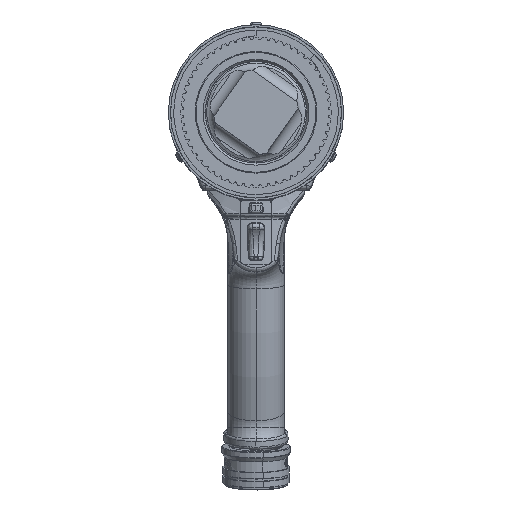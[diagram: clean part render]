
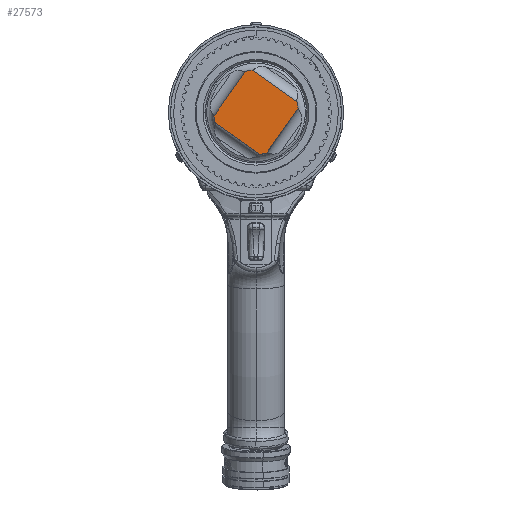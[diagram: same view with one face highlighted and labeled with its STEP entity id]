
A CAD part, top view. The second image highlights one B-rep face of the part: STEP entity #27573.
In plain terms, the highlighted planar face has unit normal (0, 0, 1).
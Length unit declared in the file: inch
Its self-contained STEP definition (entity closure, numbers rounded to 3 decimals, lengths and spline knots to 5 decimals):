
#1990 = DIRECTION ( 'NONE',  ( -0.573, -0.82, 0. ) ) ;
#4390 = DIRECTION ( 'NONE',  ( -0.82, 0.573, 0. ) ) ;
#5720 = LINE ( 'NONE', #105023, #92102 ) ;
#6228 = DIRECTION ( 'NONE',  ( 0., 0., 1. ) ) ;
#12173 = CARTESIAN_POINT ( 'NONE',  ( -1.35949, -0.63585, 4.1857 ) ) ;
#13141 = CARTESIAN_POINT ( 'NONE',  ( -0.95209, -0.24957, 4.1857 ) ) ;
#13462 = CIRCLE ( 'NONE', #134133, 0.98425 ) ;
#18363 = ORIENTED_EDGE ( 'NONE', *, *, #70847, .F. ) ;
#19346 = CARTESIAN_POINT ( 'NONE',  ( 0., 0., 4.1857 ) ) ;
#20339 = ORIENTED_EDGE ( 'NONE', *, *, #112132, .T. ) ;
#20599 = ORIENTED_EDGE ( 'NONE', *, *, #43986, .F. ) ;
#21226 = LINE ( 'NONE', #106452, #81069 ) ;
#21702 = CARTESIAN_POINT ( 'NONE',  ( -0.56387, -0.80672, 4.1857 ) ) ;
#22751 = LINE ( 'NONE', #12173, #52691 ) ;
#23236 = AXIS2_PLACEMENT_3D ( 'NONE', #73814, #6228, #85081 ) ;
#27573 = ADVANCED_FACE ( 'NONE', ( #106750 ), #61155, .F. ) ;
#29934 = AXIS2_PLACEMENT_3D ( 'NONE', #19346, #98144, #30703 ) ;
#30703 = DIRECTION ( 'NONE',  ( -0.82, 0.573, 0. ) ) ;
#33033 = AXIS2_PLACEMENT_3D ( 'NONE', #21702, #100482, #33084 ) ;
#33084 = DIRECTION ( 'NONE',  ( 0.82, -0.573, 0. ) ) ;
#37299 = EDGE_CURVE ( 'NONE', #139135, #71724, #110958, .T. ) ;
#38981 = DIRECTION ( 'NONE',  ( -0.82, 0.573, 0. ) ) ;
#39722 = CARTESIAN_POINT ( 'NONE',  ( -0.97987, -0.09274, 4.1857 ) ) ;
#41334 = VERTEX_POINT ( 'NONE', #144598 ) ;
#43986 = EDGE_CURVE ( 'NONE', #108054, #71724, #22751, .T. ) ;
#52691 = VECTOR ( 'NONE', #102306, 39.37008 ) ;
#52964 = VERTEX_POINT ( 'NONE', #13141 ) ;
#55690 = CARTESIAN_POINT ( 'NONE',  ( 0., 0., 4.1857 ) ) ;
#61155 = PLANE ( 'NONE',  #33033 ) ;
#61475 = VERTEX_POINT ( 'NONE', #116058 ) ;
#67053 = DIRECTION ( 'NONE',  ( -0.82, 0.573, 0. ) ) ;
#70847 = EDGE_CURVE ( 'NONE', #139135, #41334, #5720, .T. ) ;
#71724 = VERTEX_POINT ( 'NONE', #86810 ) ;
#72017 = DIRECTION ( 'NONE',  ( 0., 0., 1. ) ) ;
#73814 = CARTESIAN_POINT ( 'NONE',  ( 0., 0., 4.1857 ) ) ;
#81069 = VECTOR ( 'NONE', #38981, 39.37008 ) ;
#85081 = DIRECTION ( 'NONE',  ( -0.82, 0.573, 0. ) ) ;
#86810 = CARTESIAN_POINT ( 'NONE',  ( -0.24957, 0.95209, 4.1857 ) ) ;
#92102 = VECTOR ( 'NONE', #128073, 39.37008 ) ;
#93307 = EDGE_CURVE ( 'NONE', #133139, #52964, #21226, .T. ) ;
#93427 = EDGE_CURVE ( 'NONE', #108054, #52964, #96939, .T. ) ;
#95415 = EDGE_CURVE ( 'NONE', #145980, #61475, #101613, .T. ) ;
#96218 = CIRCLE ( 'NONE', #100062, 0.98425 ) ;
#96939 = CIRCLE ( 'NONE', #23236, 0.98425 ) ;
#97596 = ORIENTED_EDGE ( 'NONE', *, *, #93307, .F. ) ;
#98122 = VECTOR ( 'NONE', #1990, 39.37008 ) ;
#98144 = DIRECTION ( 'NONE',  ( 0., 0., 1. ) ) ;
#100062 = AXIS2_PLACEMENT_3D ( 'NONE', #139470, #72017, #4390 ) ;
#100482 = DIRECTION ( 'NONE',  ( 0., 0., -1. ) ) ;
#101613 = LINE ( 'NONE', #137094, #98122 ) ;
#102306 = DIRECTION ( 'NONE',  ( 0.573, 0.82, 0. ) ) ;
#105023 = CARTESIAN_POINT ( 'NONE',  ( -0.63585, 1.35949, 4.1857 ) ) ;
#106452 = CARTESIAN_POINT ( 'NONE',  ( 0.63585, -1.35949, 4.1857 ) ) ;
#106750 = FACE_OUTER_BOUND ( 'NONE', #107388, .T. ) ;
#107388 = EDGE_LOOP ( 'NONE', ( #20339, #138690, #123120, #18363, #119874, #20599, #107458, #97596 ) ) ;
#107458 = ORIENTED_EDGE ( 'NONE', *, *, #93427, .T. ) ;
#108054 = VERTEX_POINT ( 'NONE', #39722 ) ;
#110958 = CIRCLE ( 'NONE', #29934, 0.98425 ) ;
#111044 = EDGE_CURVE ( 'NONE', #145980, #41334, #96218, .T. ) ;
#112132 = EDGE_CURVE ( 'NONE', #133139, #61475, #13462, .T. ) ;
#112956 = CARTESIAN_POINT ( 'NONE',  ( -0.09274, 0.97987, 4.1857 ) ) ;
#116058 = CARTESIAN_POINT ( 'NONE',  ( 0.24957, -0.95209, 4.1857 ) ) ;
#119874 = ORIENTED_EDGE ( 'NONE', *, *, #37299, .T. ) ;
#123120 = ORIENTED_EDGE ( 'NONE', *, *, #111044, .T. ) ;
#124181 = CARTESIAN_POINT ( 'NONE',  ( 0.97987, 0.09274, 4.1857 ) ) ;
#128073 = DIRECTION ( 'NONE',  ( 0.82, -0.573, 0. ) ) ;
#133139 = VERTEX_POINT ( 'NONE', #143649 ) ;
#134133 = AXIS2_PLACEMENT_3D ( 'NONE', #55690, #134465, #67053 ) ;
#134465 = DIRECTION ( 'NONE',  ( 0., 0., 1. ) ) ;
#137094 = CARTESIAN_POINT ( 'NONE',  ( 1.35949, 0.63585, 4.1857 ) ) ;
#138690 = ORIENTED_EDGE ( 'NONE', *, *, #95415, .F. ) ;
#139135 = VERTEX_POINT ( 'NONE', #112956 ) ;
#139470 = CARTESIAN_POINT ( 'NONE',  ( 0., 0., 4.1857 ) ) ;
#143649 = CARTESIAN_POINT ( 'NONE',  ( 0.09274, -0.97987, 4.1857 ) ) ;
#144598 = CARTESIAN_POINT ( 'NONE',  ( 0.95209, 0.24957, 4.1857 ) ) ;
#145980 = VERTEX_POINT ( 'NONE', #124181 ) ;
